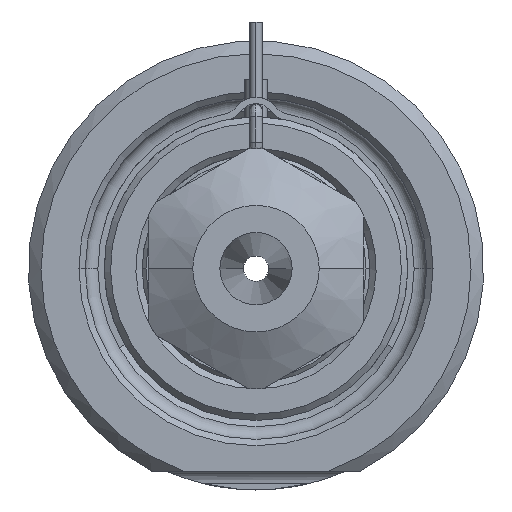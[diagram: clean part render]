
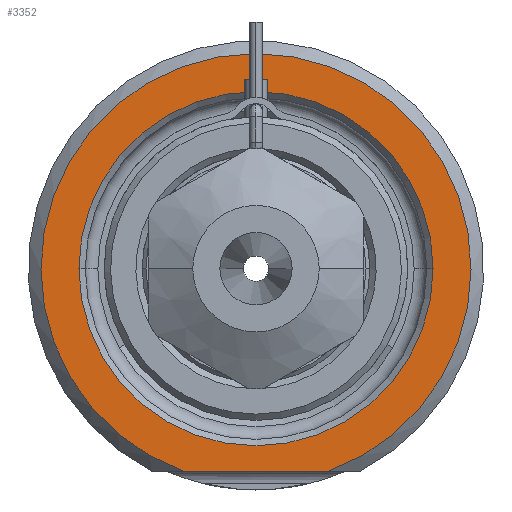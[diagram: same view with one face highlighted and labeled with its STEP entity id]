
A CAD part, front view. The second image highlights one B-rep face of the part: STEP entity #3352.
In plain terms, the highlighted planar face has unit normal (0, -1, 0).
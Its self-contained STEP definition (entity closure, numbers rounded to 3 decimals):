
#670=DIRECTION('',(1.,0.,0.));
#671=VECTOR('',#670,11.489);
#672=CARTESIAN_POINT('',(-5.745,0.,-16.));
#673=LINE('',#672,#671);
#674=CARTESIAN_POINT('',(0.,0.,0.));
#675=DIRECTION('',(0.,1.,0.));
#676=DIRECTION('',(-1.,0.,0.));
#677=AXIS2_PLACEMENT_3D('',#674,#675,#676);
#679=CARTESIAN_POINT('',(0.,0.,0.));
#680=DIRECTION('',(0.,1.,0.));
#681=DIRECTION('',(1.,0.,0.));
#682=AXIS2_PLACEMENT_3D('',#679,#680,#681);
#786=CARTESIAN_POINT('',(0.,0.,0.));
#787=DIRECTION('',(0.,-1.,0.));
#788=DIRECTION('',(0.338,0.,-0.941));
#789=AXIS2_PLACEMENT_3D('',#786,#787,#788);
#2142=CARTESIAN_POINT('',(-14.,0.,0.));
#2143=CARTESIAN_POINT('',(14.,0.,0.));
#2144=VERTEX_POINT('',#2142);
#2145=VERTEX_POINT('',#2143);
#2182=CARTESIAN_POINT('',(-5.745,0.,-16.));
#2183=CARTESIAN_POINT('',(5.745,0.,-16.));
#2184=VERTEX_POINT('',#2182);
#2185=VERTEX_POINT('',#2183);
#3336=CARTESIAN_POINT('',(0.,0.,0.));
#3337=DIRECTION('',(0.,-1.,0.));
#3338=DIRECTION('',(1.,0.,0.));
#3339=AXIS2_PLACEMENT_3D('',#3336,#3337,#3338);
#3340=PLANE('',#3339);
#3342=ORIENTED_EDGE('',*,*,#3341,.F.);
#3344=ORIENTED_EDGE('',*,*,#3343,.F.);
#3345=EDGE_LOOP('',(#3342,#3344));
#3346=FACE_OUTER_BOUND('',#3345,.F.);
#3348=ORIENTED_EDGE('',*,*,#3347,.F.);
#3349=ORIENTED_EDGE('',*,*,#3326,.F.);
#3350=EDGE_LOOP('',(#3348,#3349));
#3351=FACE_BOUND('',#3350,.F.);
#3352=ADVANCED_FACE('',(#3346,#3351),#3340,.T.);
#678=CIRCLE('',#677,14.);
#683=CIRCLE('',#682,14.);
#790=CIRCLE('',#789,17.);
#3326=EDGE_CURVE('',#2145,#2144,#683,.T.);
#3341=EDGE_CURVE('',#2184,#2185,#673,.T.);
#3343=EDGE_CURVE('',#2185,#2184,#790,.T.);
#3347=EDGE_CURVE('',#2144,#2145,#678,.T.);
